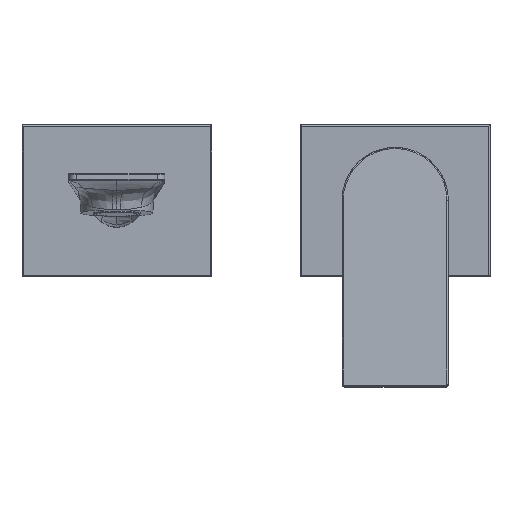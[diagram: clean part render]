
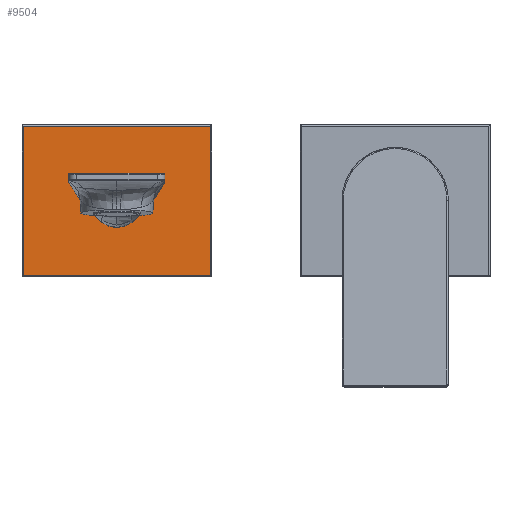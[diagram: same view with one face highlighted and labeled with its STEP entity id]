
A CAD part, top view. The second image highlights one B-rep face of the part: STEP entity #9504.
In plain terms, the highlighted planar face has unit normal (0, 0, 1).
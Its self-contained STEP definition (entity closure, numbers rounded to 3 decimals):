
#7755=DIRECTION('',(-1.,0.,0.));
#7756=VECTOR('',#7755,37.);
#7757=CARTESIAN_POINT('',(-93.5,10.5,45.7));
#7758=LINE('',#7757,#7756);
#7781=DIRECTION('',(-1.,0.,0.));
#7782=VECTOR('',#7781,74.);
#7783=CARTESIAN_POINT('',(-75.,29.5,45.7));
#7784=LINE('',#7783,#7782);
#7785=DIRECTION('',(0.,1.,0.));
#7786=VECTOR('',#7785,59.);
#7787=CARTESIAN_POINT('',(-75.,-29.5,45.7));
#7788=LINE('',#7787,#7786);
#7789=DIRECTION('',(1.,0.,0.));
#7790=VECTOR('',#7789,74.);
#7791=CARTESIAN_POINT('',(-149.,-29.5,45.7));
#7792=LINE('',#7791,#7790);
#7793=DIRECTION('',(0.,-1.,0.));
#7794=VECTOR('',#7793,59.);
#7795=CARTESIAN_POINT('',(-149.,29.5,45.7));
#7796=LINE('',#7795,#7794);
#7937=CARTESIAN_POINT('',(-130.5,10.,45.7));
#7938=DIRECTION('',(0.,0.,1.));
#7939=DIRECTION('',(0.,1.,0.));
#7940=AXIS2_PLACEMENT_3D('',#7937,#7938,#7939);
#8211=CARTESIAN_POINT('',(-93.5,10.,45.7));
#8212=DIRECTION('',(0.,0.,-1.));
#8213=DIRECTION('',(0.,1.,0.));
#8214=AXIS2_PLACEMENT_3D('',#8211,#8212,#8213);
#8221=DIRECTION('',(0.,-1.,0.));
#8222=VECTOR('',#8221,2.388);
#8223=CARTESIAN_POINT('',(-93.,10.,45.7));
#8224=LINE('',#8223,#8222);
#8256=CARTESIAN_POINT('',(-93.5,7.612,45.7));
#8257=DIRECTION('',(0.,0.,-1.));
#8258=DIRECTION('',(1.,0.,0.));
#8259=AXIS2_PLACEMENT_3D('',#8256,#8257,#8258);
#8266=CARTESIAN_POINT('',(-106.,-8.5,45.7));
#8267=CARTESIAN_POINT('',(-105.825,-8.369,45.7));
#8268=CARTESIAN_POINT('',(-105.454,-8.082,45.7));
#8269=CARTESIAN_POINT('',(-104.841,-7.576,45.7));
#8270=CARTESIAN_POINT('',(-104.162,-6.984,45.7));
#8271=CARTESIAN_POINT('',(-103.412,-6.291,45.7));
#8272=CARTESIAN_POINT('',(-102.594,-5.496,45.7));
#8273=CARTESIAN_POINT('',(-101.705,-4.585,45.7));
#8274=CARTESIAN_POINT('',(-100.766,-3.573,45.7));
#8275=CARTESIAN_POINT('',(-99.783,-2.459,45.7));
#8276=CARTESIAN_POINT('',(-98.777,-1.258,45.7));
#8277=CARTESIAN_POINT('',(-97.799,-0.028,45.7));
#8278=CARTESIAN_POINT('',(-96.895,1.17,45.7));
#8279=CARTESIAN_POINT('',(-96.082,2.307,45.7));
#8280=CARTESIAN_POINT('',(-95.356,3.378,45.7));
#8281=CARTESIAN_POINT('',(-94.727,4.358,45.7));
#8282=CARTESIAN_POINT('',(-94.188,5.251,45.7));
#8283=CARTESIAN_POINT('',(-93.733,6.052,45.7));
#8284=CARTESIAN_POINT('',(-93.353,6.769,45.7));
#8285=CARTESIAN_POINT('',(-93.143,7.197,45.7));
#8286=CARTESIAN_POINT('',(-93.048,7.398,45.7));
#8292=CARTESIAN_POINT('',(-112.,-0.5,45.7));
#8293=DIRECTION('',(0.,0.,1.));
#8294=DIRECTION('',(-0.6,-0.8,0.));
#8295=AXIS2_PLACEMENT_3D('',#8292,#8293,#8294);
#8309=CARTESIAN_POINT('',(-118.,-8.5,45.7));
#8310=CARTESIAN_POINT('',(-118.175,-8.369,45.7));
#8311=CARTESIAN_POINT('',(-118.546,-8.082,45.7));
#8312=CARTESIAN_POINT('',(-119.159,-7.576,45.7));
#8313=CARTESIAN_POINT('',(-119.838,-6.984,45.7));
#8314=CARTESIAN_POINT('',(-120.588,-6.291,45.7));
#8315=CARTESIAN_POINT('',(-121.406,-5.496,45.7));
#8316=CARTESIAN_POINT('',(-122.295,-4.585,45.7));
#8317=CARTESIAN_POINT('',(-123.234,-3.573,45.7));
#8318=CARTESIAN_POINT('',(-124.217,-2.459,45.7));
#8319=CARTESIAN_POINT('',(-125.223,-1.258,45.7));
#8320=CARTESIAN_POINT('',(-126.201,-0.028,45.7));
#8321=CARTESIAN_POINT('',(-127.105,1.17,45.7));
#8322=CARTESIAN_POINT('',(-127.918,2.307,45.7));
#8323=CARTESIAN_POINT('',(-128.644,3.378,45.7));
#8324=CARTESIAN_POINT('',(-129.273,4.358,45.7));
#8325=CARTESIAN_POINT('',(-129.812,5.251,45.7));
#8326=CARTESIAN_POINT('',(-130.267,6.052,45.7));
#8327=CARTESIAN_POINT('',(-130.647,6.769,45.7));
#8328=CARTESIAN_POINT('',(-130.857,7.197,45.7));
#8329=CARTESIAN_POINT('',(-130.952,7.398,45.7));
#8331=CARTESIAN_POINT('',(-130.5,7.612,45.7));
#8332=DIRECTION('',(0.,0.,1.));
#8333=DIRECTION('',(-1.,0.,0.));
#8334=AXIS2_PLACEMENT_3D('',#8331,#8332,#8333);
#8336=DIRECTION('',(0.,-1.,0.));
#8337=VECTOR('',#8336,2.388);
#8338=CARTESIAN_POINT('',(-131.,10.,45.7));
#8339=LINE('',#8338,#8337);
#9315=CARTESIAN_POINT('',(-75.,29.5,45.7));
#9316=CARTESIAN_POINT('',(-149.,29.5,45.7));
#9317=VERTEX_POINT('',#9315);
#9318=VERTEX_POINT('',#9316);
#9325=CARTESIAN_POINT('',(-149.,-29.5,45.7));
#9326=VERTEX_POINT('',#9325);
#9329=CARTESIAN_POINT('',(-75.,-29.5,45.7));
#9330=VERTEX_POINT('',#9329);
#9331=CARTESIAN_POINT('',(-93.5,10.5,45.7));
#9332=CARTESIAN_POINT('',(-130.5,10.5,45.7));
#9333=VERTEX_POINT('',#9331);
#9334=VERTEX_POINT('',#9332);
#9335=CARTESIAN_POINT('',(-131.,10.,45.7));
#9336=CARTESIAN_POINT('',(-131.,7.612,45.7));
#9337=VERTEX_POINT('',#9335);
#9338=VERTEX_POINT('',#9336);
#9339=CARTESIAN_POINT('',(-118.,-8.5,45.7));
#9340=CARTESIAN_POINT('',(-106.,-8.5,45.7));
#9341=VERTEX_POINT('',#9339);
#9342=VERTEX_POINT('',#9340);
#9343=VERTEX_POINT('',#8329);
#9344=CARTESIAN_POINT('',(-93.,10.,45.7));
#9345=CARTESIAN_POINT('',(-93.,7.612,45.7));
#9346=VERTEX_POINT('',#9344);
#9347=VERTEX_POINT('',#9345);
#9348=VERTEX_POINT('',#8286);
#9468=CARTESIAN_POINT('',(-112.,0.,45.7));
#9469=DIRECTION('',(0.,0.,1.));
#9470=DIRECTION('',(0.,-1.,0.));
#9471=AXIS2_PLACEMENT_3D('',#9468,#9469,#9470);
#9472=PLANE('',#9471);
#9474=ORIENTED_EDGE('',*,*,#9473,.F.);
#9476=ORIENTED_EDGE('',*,*,#9475,.F.);
#9478=ORIENTED_EDGE('',*,*,#9477,.F.);
#9480=ORIENTED_EDGE('',*,*,#9479,.F.);
#9481=EDGE_LOOP('',(#9474,#9476,#9478,#9480));
#9482=FACE_OUTER_BOUND('',#9481,.F.);
#9483=ORIENTED_EDGE('',*,*,#9454,.T.);
#9485=ORIENTED_EDGE('',*,*,#9484,.T.);
#9487=ORIENTED_EDGE('',*,*,#9486,.T.);
#9489=ORIENTED_EDGE('',*,*,#9488,.T.);
#9491=ORIENTED_EDGE('',*,*,#9490,.F.);
#9493=ORIENTED_EDGE('',*,*,#9492,.T.);
#9495=ORIENTED_EDGE('',*,*,#9494,.T.);
#9497=ORIENTED_EDGE('',*,*,#9496,.F.);
#9499=ORIENTED_EDGE('',*,*,#9498,.F.);
#9501=ORIENTED_EDGE('',*,*,#9500,.F.);
#9502=EDGE_LOOP('',(#9483,#9485,#9487,#9489,#9491,#9493,#9495,#9497,#9499,
#9501));
#9503=FACE_BOUND('',#9502,.F.);
#9504=ADVANCED_FACE('',(#9482,#9503),#9472,.T.);
#7941=CIRCLE('',#7940,0.5);
#8215=CIRCLE('',#8214,0.5);
#8260=CIRCLE('',#8259,0.5);
#8287=B_SPLINE_CURVE_WITH_KNOTS('',3,(#8266,#8267,#8268,#8269,#8270,#8271,#8272,
#8273,#8274,#8275,#8276,#8277,#8278,#8279,#8280,#8281,#8282,#8283,#8284,#8285,
#8286),.UNSPECIFIED.,.F.,.F.,(4,1,1,1,1,1,1,1,1,1,1,1,1,1,1,1,1,1,4),(0.,
0.056,0.111,0.167,0.222,
0.278,0.333,0.389,0.444,0.5,
0.556,0.611,0.667,0.722,
0.778,0.833,0.889,0.944,1.),
.UNSPECIFIED.);
#8296=CIRCLE('',#8295,10.);
#8330=B_SPLINE_CURVE_WITH_KNOTS('',3,(#8309,#8310,#8311,#8312,#8313,#8314,#8315,
#8316,#8317,#8318,#8319,#8320,#8321,#8322,#8323,#8324,#8325,#8326,#8327,#8328,
#8329),.UNSPECIFIED.,.F.,.F.,(4,1,1,1,1,1,1,1,1,1,1,1,1,1,1,1,1,1,4),(0.,
0.056,0.111,0.167,0.222,
0.278,0.333,0.389,0.444,0.5,
0.556,0.611,0.667,0.722,
0.778,0.833,0.889,0.944,1.),
.UNSPECIFIED.);
#8335=CIRCLE('',#8334,0.5);
#9454=EDGE_CURVE('',#9333,#9334,#7758,.T.);
#9473=EDGE_CURVE('',#9317,#9318,#7784,.T.);
#9475=EDGE_CURVE('',#9330,#9317,#7788,.T.);
#9477=EDGE_CURVE('',#9326,#9330,#7792,.T.);
#9479=EDGE_CURVE('',#9318,#9326,#7796,.T.);
#9484=EDGE_CURVE('',#9334,#9337,#7941,.T.);
#9486=EDGE_CURVE('',#9337,#9338,#8339,.T.);
#9488=EDGE_CURVE('',#9338,#9343,#8335,.T.);
#9490=EDGE_CURVE('',#9341,#9343,#8330,.T.);
#9492=EDGE_CURVE('',#9341,#9342,#8296,.T.);
#9494=EDGE_CURVE('',#9342,#9348,#8287,.T.);
#9496=EDGE_CURVE('',#9347,#9348,#8260,.T.);
#9498=EDGE_CURVE('',#9346,#9347,#8224,.T.);
#9500=EDGE_CURVE('',#9333,#9346,#8215,.T.);
